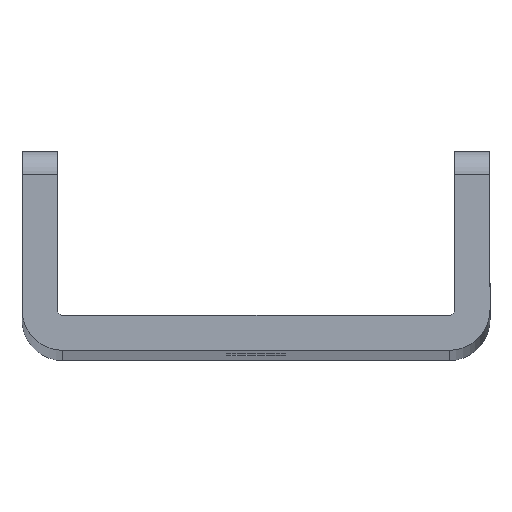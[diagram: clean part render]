
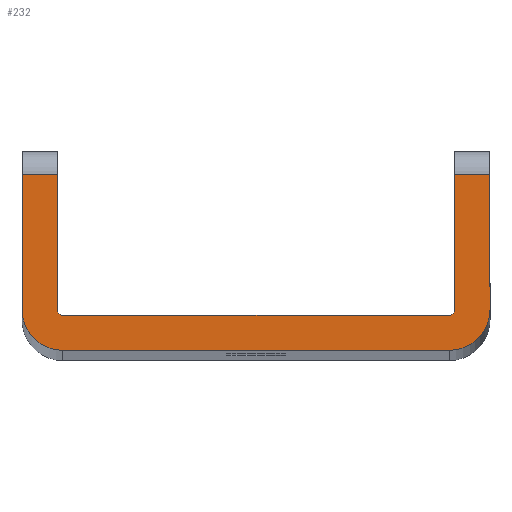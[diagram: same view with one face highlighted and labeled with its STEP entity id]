
A CAD part, top view. The second image highlights one B-rep face of the part: STEP entity #232.
In plain terms, the highlighted planar face has unit normal (0, 0, 1).
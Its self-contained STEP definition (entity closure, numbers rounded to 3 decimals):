
#17 = EDGE_CURVE ( 'NONE', #76, #1624, #448, .T. ) ;
#19 = AXIS2_PLACEMENT_3D ( 'NONE', #1952, #2896, #538 ) ;
#31 = AXIS2_PLACEMENT_3D ( 'NONE', #2378, #2566, #2152 ) ;
#64 = AXIS2_PLACEMENT_3D ( 'NONE', #637, #1835, #2247 ) ;
#76 = VERTEX_POINT ( 'NONE', #257 ) ;
#94 = LINE ( 'NONE', #1728, #353 ) ;
#101 = EDGE_CURVE ( 'NONE', #1152, #2827, #2796, .T. ) ;
#104 = ORIENTED_EDGE ( 'NONE', *, *, #800, .T. ) ;
#118 = ORIENTED_EDGE ( 'NONE', *, *, #2001, .T. ) ;
#129 = CARTESIAN_POINT ( 'NONE',  ( 17., 3.5, 500. ) ) ;
#204 = VERTEX_POINT ( 'NONE', #2552 ) ;
#224 = AXIS2_PLACEMENT_3D ( 'NONE', #413, #1549, #369 ) ;
#232 = ADVANCED_FACE ( 'NONE', ( #2615 ), #1714, .T. ) ;
#257 = CARTESIAN_POINT ( 'NONE',  ( -16.5, 3., 500. ) ) ;
#284 = ORIENTED_EDGE ( 'NONE', *, *, #772, .T. ) ;
#290 = EDGE_LOOP ( 'NONE', ( #118, #104, #1325, #1102, #2696, #901, #2108, #785, #2354, #1901, #2957, #284 ) ) ;
#339 = VERTEX_POINT ( 'NONE', #1110 ) ;
#353 = VECTOR ( 'NONE', #1497, 1000. ) ;
#361 = AXIS2_PLACEMENT_3D ( 'NONE', #1083, #2028, #1980 ) ;
#369 = DIRECTION ( 'NONE',  ( -1., 0., 0. ) ) ;
#413 = CARTESIAN_POINT ( 'NONE',  ( 16.5, 3.5, 500. ) ) ;
#448 = CIRCLE ( 'NONE', #64, 0.5 ) ;
#466 = CARTESIAN_POINT ( 'NONE',  ( -20., 3.5, 500. ) ) ;
#488 = CARTESIAN_POINT ( 'NONE',  ( 17., 3.5, 500. ) ) ;
#512 = EDGE_CURVE ( 'NONE', #2917, #1834, #1845, .T. ) ;
#523 = CARTESIAN_POINT ( 'NONE',  ( -20., 15., 500. ) ) ;
#538 = DIRECTION ( 'NONE',  ( 1., 0., 0. ) ) ;
#637 = CARTESIAN_POINT ( 'NONE',  ( -16.5, 3.5, 500. ) ) ;
#701 = VECTOR ( 'NONE', #1763, 1000. ) ;
#733 = LINE ( 'NONE', #2141, #1382 ) ;
#750 = CIRCLE ( 'NONE', #361, 0.5 ) ;
#772 = EDGE_CURVE ( 'NONE', #1984, #339, #1235, .T. ) ;
#785 = ORIENTED_EDGE ( 'NONE', *, *, #1015, .T. ) ;
#800 = EDGE_CURVE ( 'NONE', #204, #2917, #1317, .T. ) ;
#901 = ORIENTED_EDGE ( 'NONE', *, *, #17, .T. ) ;
#1015 = EDGE_CURVE ( 'NONE', #1544, #1152, #2912, .T. ) ;
#1083 = CARTESIAN_POINT ( 'NONE',  ( 16.5, 3.5, 500. ) ) ;
#1096 = CIRCLE ( 'NONE', #31, 3.5 ) ;
#1102 = ORIENTED_EDGE ( 'NONE', *, *, #2931, .T. ) ;
#1110 = CARTESIAN_POINT ( 'NONE',  ( 20., 3.5, 500. ) ) ;
#1152 = VERTEX_POINT ( 'NONE', #1836 ) ;
#1235 = CIRCLE ( 'NONE', #224, 3.5 ) ;
#1272 = LINE ( 'NONE', #1810, #701 ) ;
#1305 = DIRECTION ( 'NONE',  ( -1., 0., 0. ) ) ;
#1317 = LINE ( 'NONE', #2684, #1929 ) ;
#1325 = ORIENTED_EDGE ( 'NONE', *, *, #512, .T. ) ;
#1365 = DIRECTION ( 'NONE',  ( 1., 0., 0. ) ) ;
#1382 = VECTOR ( 'NONE', #2379, 1000. ) ;
#1390 = VECTOR ( 'NONE', #1516, 1000. ) ;
#1427 = VECTOR ( 'NONE', #1365, 1000. ) ;
#1439 = CARTESIAN_POINT ( 'NONE',  ( 16.5, 3., 500. ) ) ;
#1488 = CARTESIAN_POINT ( 'NONE',  ( -17., 15., 500. ) ) ;
#1497 = DIRECTION ( 'NONE',  ( -1., 0., 0. ) ) ;
#1516 = DIRECTION ( 'NONE',  ( -1., 0., 0. ) ) ;
#1544 = VERTEX_POINT ( 'NONE', #1488 ) ;
#1549 = DIRECTION ( 'NONE',  ( 0., 0., 1. ) ) ;
#1564 = CARTESIAN_POINT ( 'NONE',  ( -17., 3.5, 500. ) ) ;
#1624 = VERTEX_POINT ( 'NONE', #1564 ) ;
#1662 = EDGE_CURVE ( 'NONE', #2096, #1984, #2035, .T. ) ;
#1678 = EDGE_CURVE ( 'NONE', #2827, #2096, #1096, .T. ) ;
#1714 = PLANE ( 'NONE',  #19 ) ;
#1720 = VECTOR ( 'NONE', #2781, 1000. ) ;
#1728 = CARTESIAN_POINT ( 'NONE',  ( -16.5, 3., 500. ) ) ;
#1763 = DIRECTION ( 'NONE',  ( 0., 1., 0. ) ) ;
#1810 = CARTESIAN_POINT ( 'NONE',  ( -17., 17., 500. ) ) ;
#1834 = VERTEX_POINT ( 'NONE', #129 ) ;
#1835 = DIRECTION ( 'NONE',  ( 0., 0., -1. ) ) ;
#1836 = CARTESIAN_POINT ( 'NONE',  ( -20., 15., 500. ) ) ;
#1845 = LINE ( 'NONE', #488, #1720 ) ;
#1862 = DIRECTION ( 'NONE',  ( 0., -1., 0. ) ) ;
#1892 = EDGE_CURVE ( 'NONE', #2438, #76, #94, .T. ) ;
#1897 = CARTESIAN_POINT ( 'NONE',  ( -20., 3.5, 500. ) ) ;
#1901 = ORIENTED_EDGE ( 'NONE', *, *, #1678, .T. ) ;
#1929 = VECTOR ( 'NONE', #1305, 1000. ) ;
#1952 = CARTESIAN_POINT ( 'NONE',  ( -16.5, 3.5, 500. ) ) ;
#1980 = DIRECTION ( 'NONE',  ( 1., 0., 0. ) ) ;
#1984 = VERTEX_POINT ( 'NONE', #2291 ) ;
#2001 = EDGE_CURVE ( 'NONE', #339, #204, #733, .T. ) ;
#2028 = DIRECTION ( 'NONE',  ( 0., 0., -1. ) ) ;
#2035 = LINE ( 'NONE', #2959, #1427 ) ;
#2096 = VERTEX_POINT ( 'NONE', #2445 ) ;
#2108 = ORIENTED_EDGE ( 'NONE', *, *, #2618, .T. ) ;
#2141 = CARTESIAN_POINT ( 'NONE',  ( 20., 17., 500. ) ) ;
#2152 = DIRECTION ( 'NONE',  ( 1., 0., 0. ) ) ;
#2247 = DIRECTION ( 'NONE',  ( 1., 0., 0. ) ) ;
#2291 = CARTESIAN_POINT ( 'NONE',  ( 16.5, 0., 500. ) ) ;
#2318 = VECTOR ( 'NONE', #1862, 1000. ) ;
#2354 = ORIENTED_EDGE ( 'NONE', *, *, #101, .T. ) ;
#2378 = CARTESIAN_POINT ( 'NONE',  ( -16.5, 3.5, 500. ) ) ;
#2379 = DIRECTION ( 'NONE',  ( 0., 1., 0. ) ) ;
#2438 = VERTEX_POINT ( 'NONE', #1439 ) ;
#2445 = CARTESIAN_POINT ( 'NONE',  ( -16.5, 0., 500. ) ) ;
#2552 = CARTESIAN_POINT ( 'NONE',  ( 20., 15., 500. ) ) ;
#2566 = DIRECTION ( 'NONE',  ( 0., 0., 1. ) ) ;
#2615 = FACE_OUTER_BOUND ( 'NONE', #290, .T. ) ;
#2618 = EDGE_CURVE ( 'NONE', #1624, #1544, #1272, .T. ) ;
#2664 = CARTESIAN_POINT ( 'NONE',  ( 17., 15., 500. ) ) ;
#2684 = CARTESIAN_POINT ( 'NONE',  ( 17., 15., 500. ) ) ;
#2696 = ORIENTED_EDGE ( 'NONE', *, *, #1892, .T. ) ;
#2781 = DIRECTION ( 'NONE',  ( 0., -1., 0. ) ) ;
#2796 = LINE ( 'NONE', #1897, #2318 ) ;
#2827 = VERTEX_POINT ( 'NONE', #466 ) ;
#2896 = DIRECTION ( 'NONE',  ( 0., 0., 1. ) ) ;
#2912 = LINE ( 'NONE', #523, #1390 ) ;
#2917 = VERTEX_POINT ( 'NONE', #2664 ) ;
#2931 = EDGE_CURVE ( 'NONE', #1834, #2438, #750, .T. ) ;
#2957 = ORIENTED_EDGE ( 'NONE', *, *, #1662, .T. ) ;
#2959 = CARTESIAN_POINT ( 'NONE',  ( 16.5, 0., 500. ) ) ;
